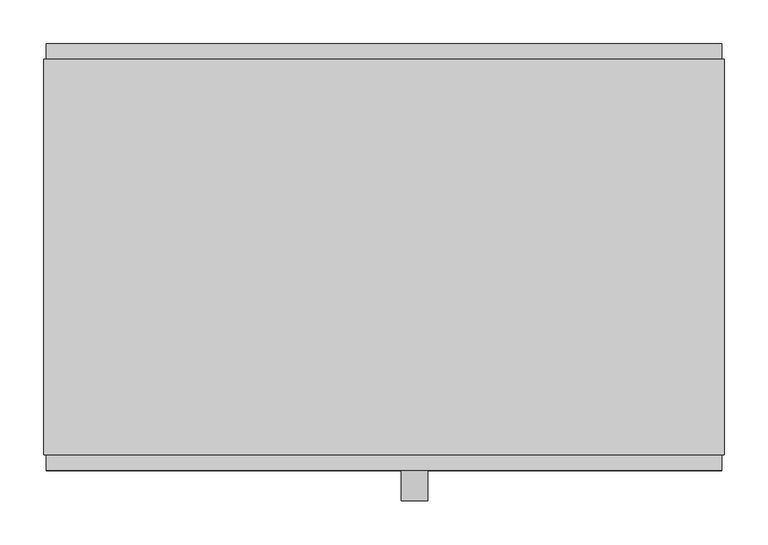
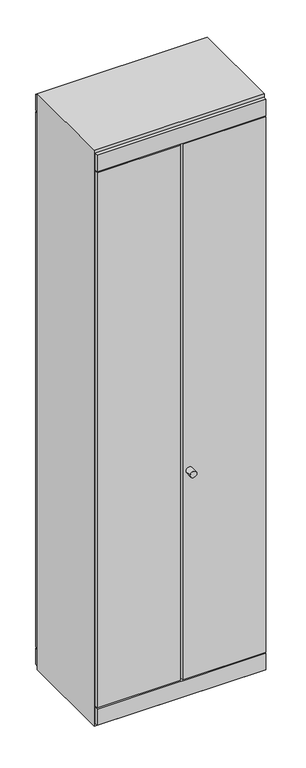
"""IFC4 building model written with IfcOpenShell, lengths in millimetres: furniture geometry, Apex - 2 DOOR - FC OR CAPPED : 2 DOOR - F/C OR CAPPED 800mm(w) x 490mm(d)."""

from ifc_helpers import new_model, si_unit, point, frame, frame_2d, origin, place, context, project, spatial, polyline, circle_curve, trimmed, segment, composite_curve, outline, extrude, source, transform, mapped, element, save


def furniture_fd24127a(model_context):
    return source(origin(), model_context, "Body", "SweptSolid", [
        extrude(outline(composite_curve([segment(trimmed(circle_curve(frame_2d((1108.0, 426.0)), 15.0), [point((1108.0, 411.0))], [point((1108.0, 441.0))], False, "CARTESIAN"), True, "CONTINUOUS"), segment(trimmed(circle_curve(frame_2d((1108.0, 426.0)), 15.0), [point((1108.0, 441.0))], [point((1108.0, 411.0))], False, "CARTESIAN"), True, "CONTINUOUS")], self_intersect=False)), frame((0.0, -525.0, 0.0), z_axis=(0.0, 1.0, 0.0), x_axis=(0.0, 0.0, 1.0)), (0.0, 0.0, 1.0), 35.0),
        extrude(outline(polyline([(2800.0, 782.0), (2800.0, 0.0), (0.0, 0.0), (0.0, 782.0), (2800.0, 782.0)]), holes=[polyline([(115.0, 773.0), (115.0, 9.0), (2685.2991236, 9.0), (2685.2991236, 773.0), (115.0, 773.0)])]), frame((0.0, -472.0, 0.0), z_axis=(0.0, 1.0, 0.0), x_axis=(0.0, 0.0, 1.0)), (0.0, 0.0, 1.0), 454.0),
        extrude(outline(polyline([(386.0, -472.0), (386.0, -490.0), (3.0, -490.0), (3.0, -472.0), (386.0, -472.0)])), frame((0.0, 0.0, 100.0), z_axis=(0.0, 0.0, 1.0), x_axis=(1.0, 0.0, 0.0)), (0.0, 0.0, 1.0), 2600.0),
        extrude(outline(polyline([(779.0, -490.0), (396.0, -490.0), (396.0, -472.0), (779.0, -472.0), (779.0, -490.0)])), frame((0.0, 0.0, 100.0), z_axis=(0.0, 0.0, 1.0), x_axis=(1.0, 0.0, 0.0)), (0.0, 0.0, 1.0), 2600.0),
        extrude(outline(polyline([(779.0, 0.0), (779.0, -18.0), (3.0, -18.0), (3.0, 0.0), (779.0, 0.0)])), frame((0.0, 0.0, 100.0), z_axis=(0.0, 0.0, 1.0), x_axis=(1.0, 0.0, 0.0)), (0.0, 0.0, 1.0), 2600.0),
        extrude(outline(polyline([(779.0, -18.0), (3.0, -18.0), (3.0, 0.0), (779.0, 0.0), (779.0, -18.0)])), frame((0.0, 0.0, 2706.0), z_axis=(0.0, 0.0, 1.0), x_axis=(1.0, 0.0, 0.0)), (0.0, 0.0, 1.0), 79.0),
        extrude(outline(polyline([(779.0, -18.0), (3.0, -18.0), (3.0, 0.0), (779.0, 0.0), (779.0, -18.0)])), frame((0.0, 0.0, 15.0), z_axis=(0.0, 0.0, 1.0), x_axis=(1.0, 0.0, 0.0)), (0.0, 0.0, 1.0), 79.0),
        extrude(outline(polyline([(779.0, -490.0), (3.0, -490.0), (3.0, -472.0), (779.0, -472.0), (779.0, -490.0)])), frame((0.0, 0.0, 2706.0), z_axis=(0.0, 0.0, 1.0), x_axis=(1.0, 0.0, 0.0)), (0.0, 0.0, 1.0), 79.0),
        extrude(outline(polyline([(779.0, -490.0), (3.0, -490.0), (3.0, -472.0), (779.0, -472.0), (779.0, -490.0)])), frame((0.0, 0.0, 15.0), z_axis=(0.0, 0.0, 1.0), x_axis=(1.0, 0.0, 0.0)), (0.0, 0.0, 1.0), 79.0),
    ])


if __name__ == "__main__":
    model = new_model("IFC4")
    model_context = context("Model", 3, world=origin())
    ifc_project = project(units=[si_unit("LENGTHUNIT", "METRE", prefix="MILLI")], contexts=[model_context])
    site = spatial("IfcSite", under=ifc_project)
    building = spatial("IfcBuilding", under=site)
    placement = place(None, origin())
    furniture_shape = furniture_fd24127a(model_context)
    element("IfcFurniture", 1, ObjectType="Apex - 2 DOOR - FC OR CAPPED : 2 DOOR - F/C OR CAPPED 800mm(w) x 490mm(d)", at=placement, inside=building, context=model_context, shape_type="MappedRepresentation", body=[
        mapped(furniture_shape, transform((0.0, 0.0, 0.0), x_axis=(1.0, 0.0, 0.0), y_axis=(0.0, 1.0, 0.0), z_axis=(0.0, 0.0, 1.0))),
    ])
    save(model, "model.ifc")
